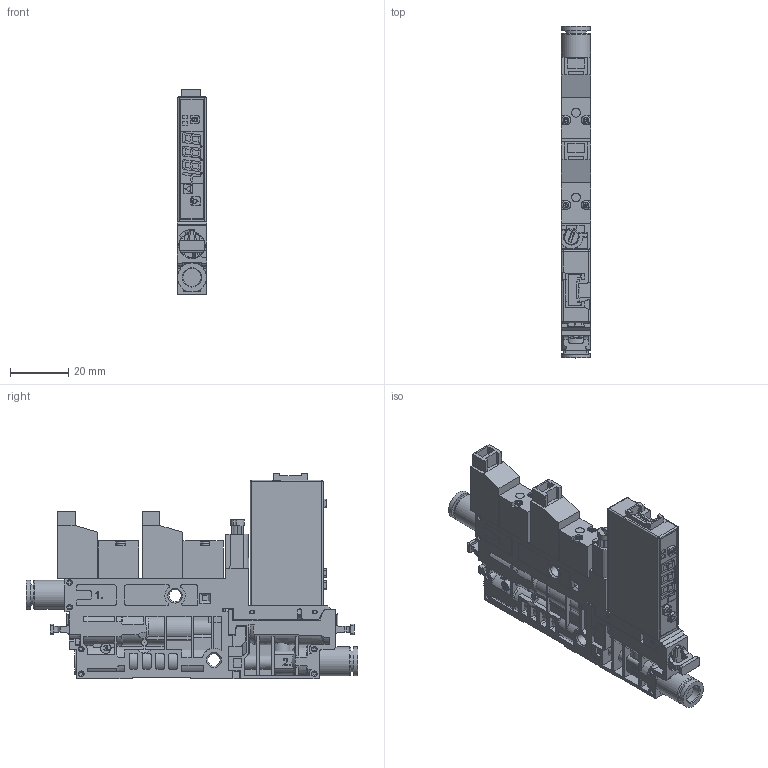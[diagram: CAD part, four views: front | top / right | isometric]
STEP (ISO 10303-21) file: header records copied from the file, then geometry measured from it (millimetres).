
FILE_DESCRIPTION(/* description */ ('Unknown'),/* implementation_level */ '2;1');
FILE_NAME(/* name */ 'C10E_A01_B02_C02_D01',/* time_stamp */ '2020-02-24T08:14:13+01:00',/* author */ ('Unknown'),/* organization */ ('Unknown'),/* preprocessor_version */ 'ST-DEVELOPER v16.7',/* originating_system */ 'DEX',/* authorisation */ $);
FILE_SCHEMA (('AUTOMOTIVE_DESIGN {1 0 10303 214 3 1 1}'));
Products named in the file (7): C10E_A01_B02_C02_D01; EC10 6mm; D01_Exhaust_plug; A01_1ch_vac_switch
Assembly tree (7 placements, depth 3):
  C10E_A01_B02_C02_D01
    EC10 6mm  x2
      EC10 6mm
    D01_Exhaust_plug
      D01_Exhaust_plug
    A01_1ch_vac_switch
      A01_1ch_vac_switch
Bounding box: 10 x 113.6 x 70.51 mm (x, y, z)
Volume: 42001.6 mm3; surface area: 23882.9 mm2
Topology: 4 solids, 9 shells, 1836 faces, 5160 edges, 3503 vertices
Faces by surface type: plane 1288, cylinder 398, cone 119, bspline 18, torus 7, sphere 6
Full cylindrical faces by diameter (mm): 0.7 x3, 1.2 x8, 1.6 x4, 1.75 x4, 2 x2, 2.1 x2, 2.5 x1, 3 x6, 3.595 x1, 4 x1, 4.2 x2, 6.2 x2, 7 x2, 8.85 x1, 9.95 x4
Entity records: 72629 total; most frequent: CARTESIAN_POINT 11996, ORIENTED_EDGE 10008, DIRECTION 9516, EDGE_CURVE 5004, VERTEX_POINT 3436, LINE 3394, VECTOR 3394, AXIS2_PLACEMENT_3D 3061
